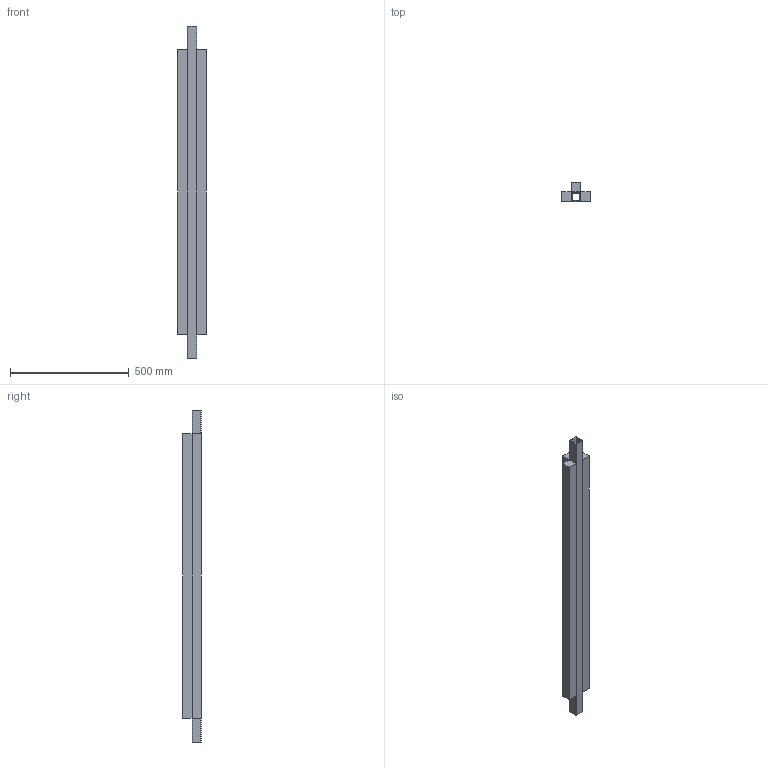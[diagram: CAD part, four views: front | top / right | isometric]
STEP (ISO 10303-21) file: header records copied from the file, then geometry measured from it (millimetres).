
FILE_DESCRIPTION (( 'STEP AP214' ), '1' );
FILE_NAME ('0005450_0_00.step', '2018-07-12T08:47:19', ( '' ), ( '' ), 'SwSTEP 2.0', 'SolidWorks 2018', '' );
FILE_SCHEMA (( 'AUTOMOTIVE_DESIGN' ));
Length unit declared in the file: millimetre
Products named in the file (3): 0005450_0_01_3 lame maxi L=1200; 0005450_0_00; 0005450_0_02_3 lame maxi L=1200
Assembly tree (2 placements, depth 2):
  0005450_0_00
    0005450_0_01_3 lame maxi L=1200
    0005450_0_02_3 lame maxi L=1200
Bounding box: 120 x 80 x 1400 mm (x, y, z)
Volume: 6564854.9 mm3; surface area: 990960.8 mm2
Topology: 2 solids, 2 shells, 32 faces, 84 edges, 56 vertices
Faces by surface type: plane 24, cylinder 8
Entity records: 1450 total; most frequent: CARTESIAN_POINT 177, DIRECTION 174, ORIENTED_EDGE 168, EDGE_CURVE 84, VECTOR 68, LINE 68, VERTEX_POINT 56, AXIS2_PLACEMENT_3D 53
